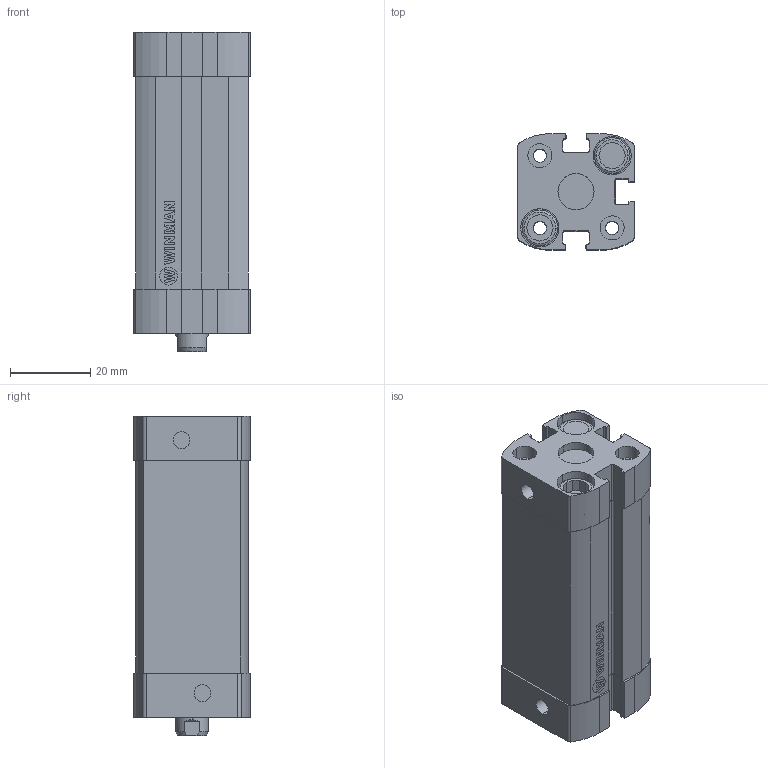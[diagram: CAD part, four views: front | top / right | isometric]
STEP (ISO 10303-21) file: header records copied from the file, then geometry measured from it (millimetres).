
FILE_DESCRIPTION (( 'STEP AP214' ), '1' );
FILE_NAME ('WPCX-016-0040_defeature.STEP', '2026-04-24T10:43:40', ( '' ), ( '' ), 'SwSTEP 2.0', 'SolidWorks 2023', '' );
FILE_SCHEMA (( 'AUTOMOTIVE_DESIGN' ));
Length unit declared in the file: millimetre
Products named in the file (3): WPCX-016-0040_defeature; Group2^WPCX-016-0040_defeature; 3D--Y.10.002.SM.064.016.02.0000-1^WPCX-016-0040_defeature
Assembly tree (2 placements, depth 2):
  WPCX-016-0040_defeature
    Group2^WPCX-016-0040_defeature
    3D--Y.10.002.SM.064.016.02.0000-1^WPCX-016-0040_defeature
Bounding box: 29 x 29 x 79.65 mm (x, y, z)
Volume: 46443.4 mm3; surface area: 29519.9 mm2
Topology: 8 solids, 8 shells, 580 faces, 1474 edges, 960 vertices
Faces by surface type: plane 314, cylinder 182, cone 56, torus 16, bspline 12
Entity records: 18008 total; most frequent: CARTESIAN_POINT 3475, DIRECTION 3040, ORIENTED_EDGE 2940, EDGE_CURVE 1470, AXIS2_PLACEMENT_3D 1029, LINE 982, VECTOR 982, VERTEX_POINT 960
